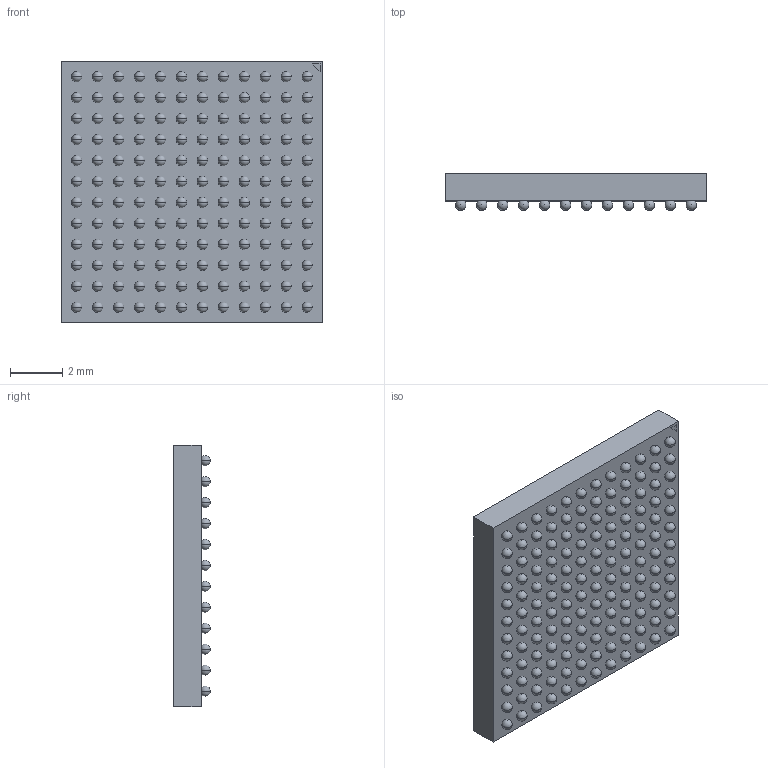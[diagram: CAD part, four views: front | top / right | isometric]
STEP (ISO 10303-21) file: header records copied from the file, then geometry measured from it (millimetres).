
FILE_DESCRIPTION (( 'STEP AP214' ), '1' );
FILE_NAME ('STHV1600L.STEP', '2018-05-29T17:01:26', ( '' ), ( '' ), 'SwSTEP 2.0', 'SolidWorks 2017', '' );
FILE_SCHEMA (( 'AUTOMOTIVE_DESIGN' ));
Length unit declared in the file: millimetre
Products named in the file (1): STHV1600L
Bounding box: 10 x 1.4 x 10 mm (x, y, z)
Volume: 109.8 mm3; surface area: 314.7 mm2
Topology: 146 solids, 146 shells, 303 faces, 1038 edges, 740 vertices
Faces by surface type: sphere 288, plane 15
Entity records: 10651 total; most frequent: DIRECTION 1214, CARTESIAN_POINT 930, ORIENTED_EDGE 636, AXIS2_PLACEMENT_3D 592, UNCERTAINTY_MEASURE_WITH_UNIT 436, PRESENTATION_LAYER_ASSIGNMENT 435, MECHANICAL_DESIGN_GEOMETRIC_PRESENTATION_REPRESENTATION 435, SURFACE_STYLE_FILL_AREA 435
